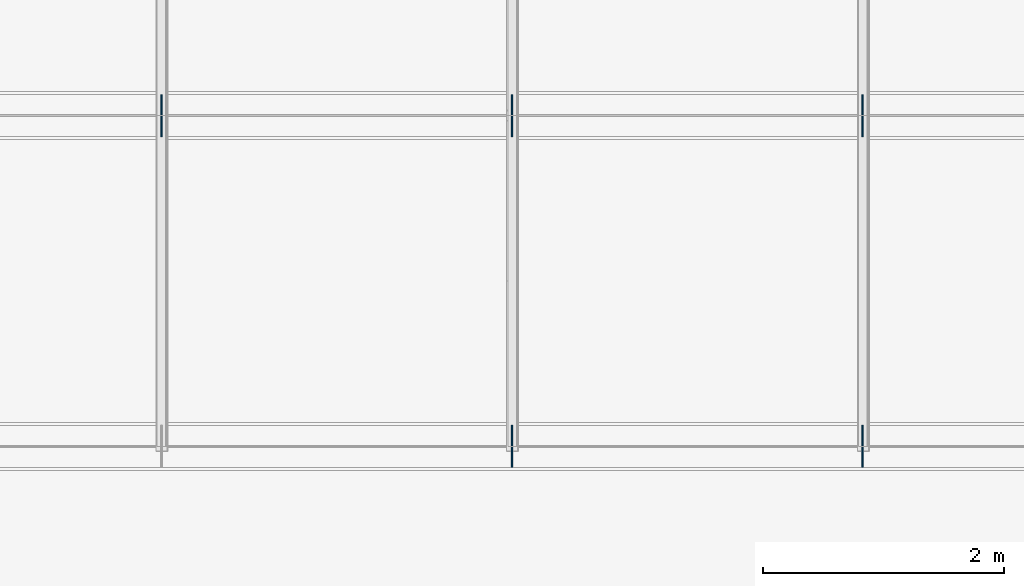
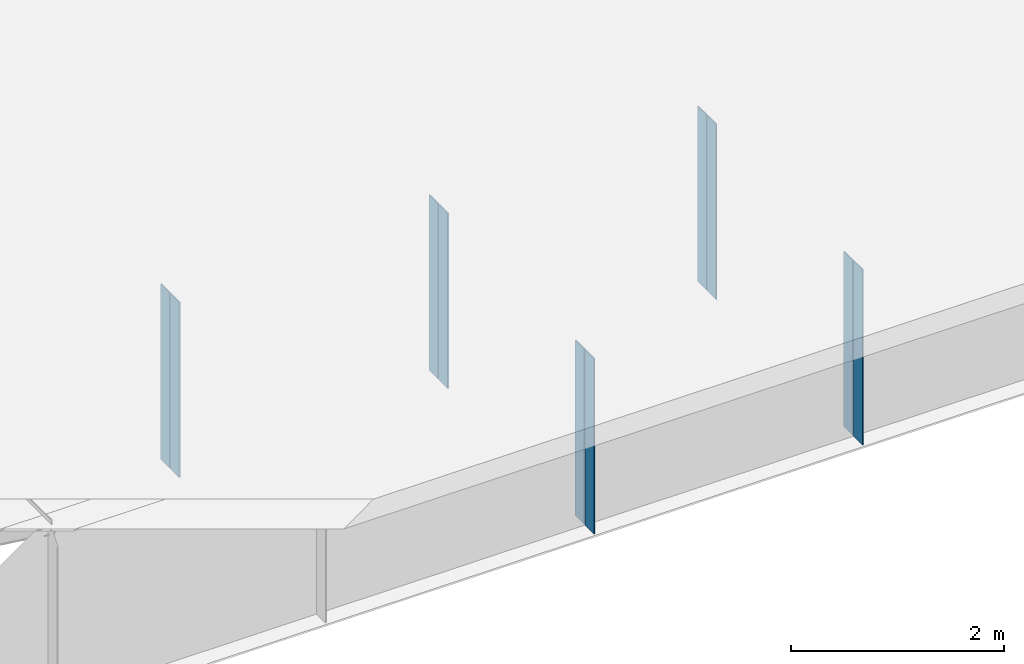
# One storey, part 8 of 17: 10 plates.
"""IFC4 building model written with IfcOpenShell, lengths in metres."""

from ifc_helpers import new_model, si_unit, frame, origin, origin_with_axes, origin_2d_with_axis, place, context, subcontext, project, spatial, rectangle, extrude, element, save


model = new_model("IFC4")

# Units and contexts
model_context = context("Model", 3, precision=1e-05, world=origin())
body_context = subcontext(model_context, "Body", "Model", "MODEL_VIEW")
ifc_project = project(units=[si_unit("LENGTHUNIT", "METRE"), si_unit("AREAUNIT", "SQUARE_METRE"), si_unit("VOLUMEUNIT", "CUBIC_METRE"), si_unit("PLANEANGLEUNIT", "RADIAN")], contexts=[model_context])

# Site, building, storey
site_placement = place(None, origin_with_axes())
site = spatial("IfcSite", under=ifc_project, at=site_placement, Name="Default Site")
building_placement = place(site_placement, origin_with_axes())
building = spatial("IfcBuilding", under=site, at=building_placement, Name="Bridge Structure")
storey_placement = place(building_placement, origin_with_axes())
storey = spatial("IfcBuildingStorey", under=building, at=storey_placement, Name="Superstructure")

# Plates
for number, where, z_axis, x_axis, name in (
    (1, (20.412, -5.409, -1.007), (0.0, 0.0, 1.0), (1.0, 0.0, 0.0), "Intermediate Stiffener 1"),
    (2, (20.412, -5.591, -1.007), (0.0, 0.0, 1.0), (1.0, 0.0, 0.0), "Intermediate Stiffener 1"),
    (3, (23.328, -5.409, -1.007), (0.0, 0.0, 1.0), (1.0, 0.0, 0.0), "Intermediate Stiffener 1"),
    (4, (23.328, -5.591, -1.007), (0.0, 0.0, 1.0), (1.0, 0.0, 0.0), "Intermediate Stiffener 1"),
    (5, (17.496, -2.6590000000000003, -1.007), (0.0, 0.0, 1.0), (1.0, 0.0, 0.0), "Intermediate Stiffener 2"),
    (6, (17.496, -2.841, -1.007), (0.0, 0.0, 1.0), (1.0, 0.0, 0.0), "Intermediate Stiffener 2"),
    (7, (20.412, -2.6590000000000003, -1.007), (0.0, 0.0, 1.0), (1.0, 0.0, 0.0), "Intermediate Stiffener 2"),
    (8, (20.412, -2.841, -1.007), (0.0, 0.0, 1.0), (1.0, 0.0, 0.0), "Intermediate Stiffener 2"),
    (9, (23.328, -2.6590000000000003, -1.007), (0.0, 0.0, 1.0), (1.0, 0.0, 0.0), "Intermediate Stiffener 2"),
    (10, (23.328, -2.841, -1.007), (0.0, 0.0, 1.0), (1.0, 0.0, 0.0), "Intermediate Stiffener 2"),
):
    element("IfcPlate", number, at=place(storey_placement, frame(where, z_axis=z_axis, x_axis=x_axis)), inside=storey, Name=name, context=body_context, shape_type="SweptSolid", body=[
        extrude(rectangle(XDim=0.012, YDim=0.168, at=origin_2d_with_axis()), origin_with_axes(), (0.0, 0.0, 1.0), 2.014),
    ])

save(model, "model.ifc")
